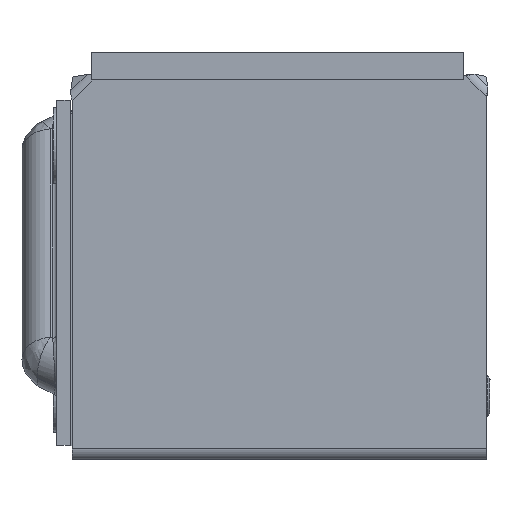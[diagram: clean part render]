
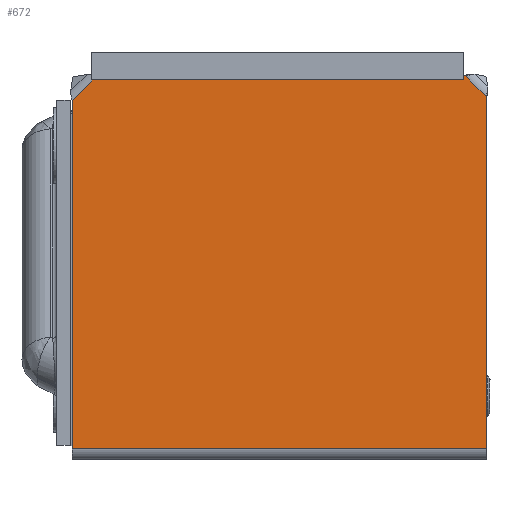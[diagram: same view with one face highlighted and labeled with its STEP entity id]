
A CAD part, left-side view. The second image highlights one B-rep face of the part: STEP entity #672.
In plain terms, the highlighted planar face has unit normal (-1, 0, 0).
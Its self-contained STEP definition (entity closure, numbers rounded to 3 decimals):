
#672 = ADVANCED_FACE ( 'NONE', ( #19691 ), #3506, .F. ) ;
#3506 = PLANE ( 'NONE',  #9016 ) ;
#3963 = DIRECTION ( 'NONE',  ( 1., 0., 0. ) ) ;
#4105 = CARTESIAN_POINT ( 'NONE',  ( -13.249, 3.297, -0.109 ) ) ;
#4165 = DIRECTION ( 'NONE',  ( 0., 1., 0. ) ) ;
#5198 = VERTEX_POINT ( 'NONE', #12636 ) ;
#5436 = VERTEX_POINT ( 'NONE', #12401 ) ;
#5450 = VERTEX_POINT ( 'NONE', #12385 ) ;
#5456 = VERTEX_POINT ( 'NONE', #12380 ) ;
#5461 = VERTEX_POINT ( 'NONE', #12372 ) ;
#5502 = VERTEX_POINT ( 'NONE', #12334 ) ;
#7498 = EDGE_CURVE ( 'NONE', #5450, #5198, #16908, .T. ) ;
#7510 = EDGE_CURVE ( 'NONE', #5461, #5456, #16961, .T. ) ;
#7515 = EDGE_CURVE ( 'NONE', #5436, #5502, #16948, .T. ) ;
#9016 = AXIS2_PLACEMENT_3D ( 'NONE', #4105, #3963, #4165 ) ;
#10393 = EDGE_LOOP ( 'NONE', ( #11220, #11193, #11170, #11093, #11021, #10947 ) ) ;
#10947 = ORIENTED_EDGE ( 'NONE', *, *, #11628, .F. ) ;
#11021 = ORIENTED_EDGE ( 'NONE', *, *, #7498, .F. ) ;
#11093 = ORIENTED_EDGE ( 'NONE', *, *, #11694, .F. ) ;
#11170 = ORIENTED_EDGE ( 'NONE', *, *, #7515, .F. ) ;
#11193 = ORIENTED_EDGE ( 'NONE', *, *, #11615, .F. ) ;
#11220 = ORIENTED_EDGE ( 'NONE', *, *, #7510, .F. ) ;
#11615 = EDGE_CURVE ( 'NONE', #5502, #5461, #16824, .T. ) ;
#11628 = EDGE_CURVE ( 'NONE', #5456, #5450, #16921, .T. ) ;
#11694 = EDGE_CURVE ( 'NONE', #5198, #5436, #16866, .T. ) ;
#11785 = DIRECTION ( 'NONE',  ( 0., 0., -1. ) ) ;
#11791 = CARTESIAN_POINT ( 'NONE',  ( -13.249, -11.703, -13.201 ) ) ;
#11805 = DIRECTION ( 'NONE',  ( 0., 0., 1. ) ) ;
#11806 = CARTESIAN_POINT ( 'NONE',  ( -13.249, 18.297, -0.109 ) ) ;
#11856 = DIRECTION ( 'NONE',  ( 0., -1., 0. ) ) ;
#11863 = CARTESIAN_POINT ( 'NONE',  ( -13.249, 18.297, 13.799 ) ) ;
#12334 = CARTESIAN_POINT ( 'NONE',  ( -13.249, -11.703, -13.201 ) ) ;
#12372 = CARTESIAN_POINT ( 'NONE',  ( -13.249, 18.297, -13.201 ) ) ;
#12380 = CARTESIAN_POINT ( 'NONE',  ( -13.249, 18.297, 12.011 ) ) ;
#12385 = CARTESIAN_POINT ( 'NONE',  ( -13.249, 16.508, 13.799 ) ) ;
#12401 = CARTESIAN_POINT ( 'NONE',  ( -13.249, -11.703, 12.299 ) ) ;
#12636 = CARTESIAN_POINT ( 'NONE',  ( -13.249, -10.203, 13.799 ) ) ;
#16824 = LINE ( 'NONE', #18239, #16836 ) ;
#16836 = VECTOR ( 'NONE', #18244, 1000. ) ;
#16844 = VECTOR ( 'NONE', #18177, 1000. ) ;
#16866 = LINE ( 'NONE', #18743, #16879 ) ;
#16879 = VECTOR ( 'NONE', #18573, 1000. ) ;
#16908 = LINE ( 'NONE', #11863, #16916 ) ;
#16916 = VECTOR ( 'NONE', #11856, 1000. ) ;
#16921 = LINE ( 'NONE', #18178, #16844 ) ;
#16948 = LINE ( 'NONE', #11791, #16974 ) ;
#16961 = LINE ( 'NONE', #11806, #16967 ) ;
#16967 = VECTOR ( 'NONE', #11805, 1000. ) ;
#16974 = VECTOR ( 'NONE', #11785, 1000. ) ;
#18177 = DIRECTION ( 'NONE',  ( 0., -0.707, 0.707 ) ) ;
#18178 = CARTESIAN_POINT ( 'NONE',  ( -13.249, 18.297, 12.011 ) ) ;
#18239 = CARTESIAN_POINT ( 'NONE',  ( -13.249, 3.297, -13.201 ) ) ;
#18244 = DIRECTION ( 'NONE',  ( 0., 1., 0. ) ) ;
#18573 = DIRECTION ( 'NONE',  ( 0., -0.707, -0.707 ) ) ;
#18743 = CARTESIAN_POINT ( 'NONE',  ( -13.249, -10.203, 13.799 ) ) ;
#19691 = FACE_OUTER_BOUND ( 'NONE', #10393, .T. ) ;
